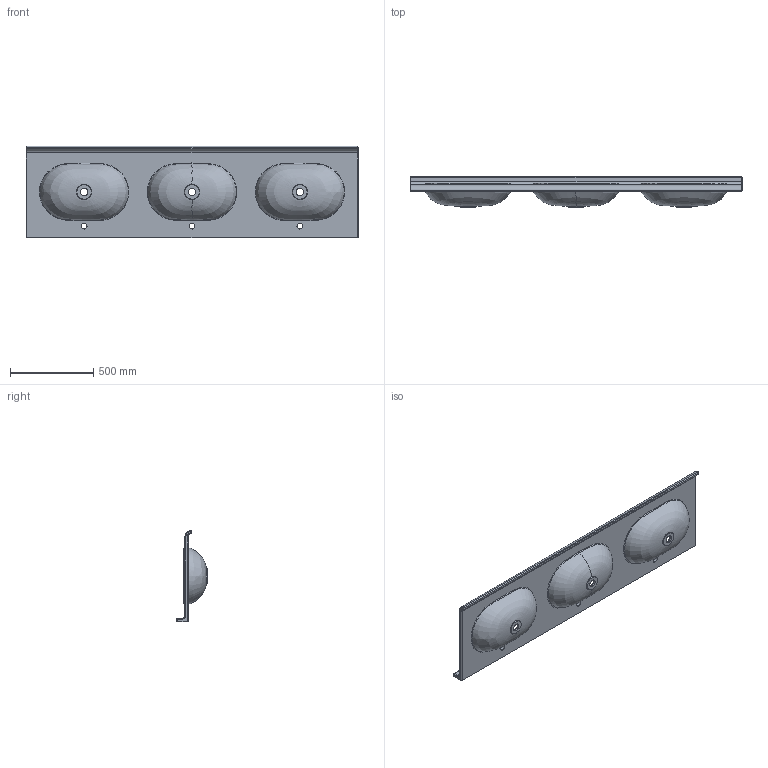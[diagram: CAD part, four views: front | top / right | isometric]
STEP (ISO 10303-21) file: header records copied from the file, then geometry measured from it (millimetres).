
FILE_DESCRIPTION (( 'STEP AP203' ), '1' );
FILE_NAME ('SMLC2005530M.STEP', '2019-10-23T10:11:56', ( '' ), ( '' ), 'SwSTEP 2.0', 'SolidWorks 2019', '' );
FILE_SCHEMA (( 'CONFIG_CONTROL_DESIGN' ));
Length unit declared in the file: millimetre
Products named in the file (1): SMLC2005530M
Bounding box: 2000 x 185 x 549.64 mm (x, y, z)
Volume: 28238374.1 mm3; surface area: 2920543.7 mm2
Topology: 1 solids, 1 shells, 109 faces, 255 edges, 151 vertices
Faces by surface type: bspline 40, cylinder 22, plane 17, torus 15, cone 9, sphere 6
Full cylindrical faces by diameter (mm): 35 x3, 46 x3
Entity records: 76670 total; most frequent: CARTESIAN_POINT 74517, ORIENTED_EDGE 424, DIRECTION 370, EDGE_CURVE 212, AXIS2_PLACEMENT_3D 162, EDGE_LOOP 154, VERTEX_POINT 138, FACE_OUTER_BOUND 130
